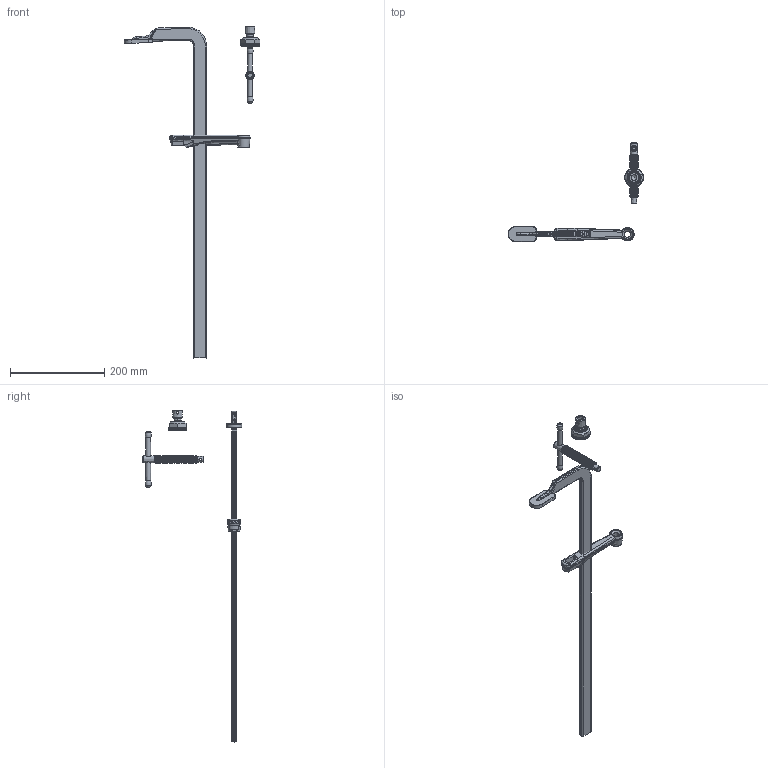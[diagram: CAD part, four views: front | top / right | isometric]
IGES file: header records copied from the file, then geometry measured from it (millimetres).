
Start section: ZWSOFT
Global section: file name: GSL60_kpl_28x11.igs; native system: ZW3D; preprocessor: 1.0; author: ZW3D; organization: ZWSOFT; date: 150410.145314; units: millimetre
Bounding box: 288.37 x 211 x 705.5 mm (x, y, z)
Surface area: 103305.4 mm2 (no closed solid volume)
Topology: 0 solids, 0 shells, 426 faces, 2088 edges, 1744 vertices
Faces by surface type: bspline 426
